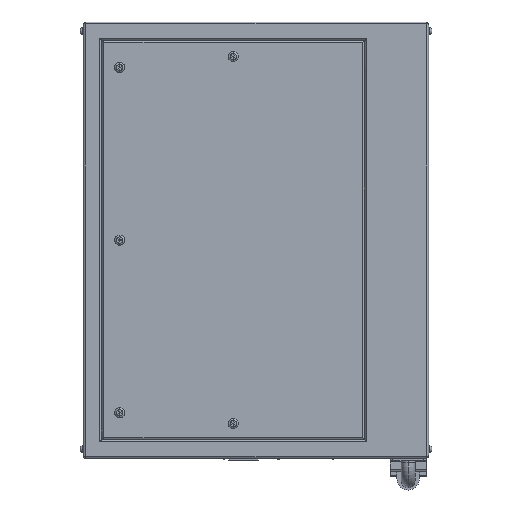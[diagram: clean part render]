
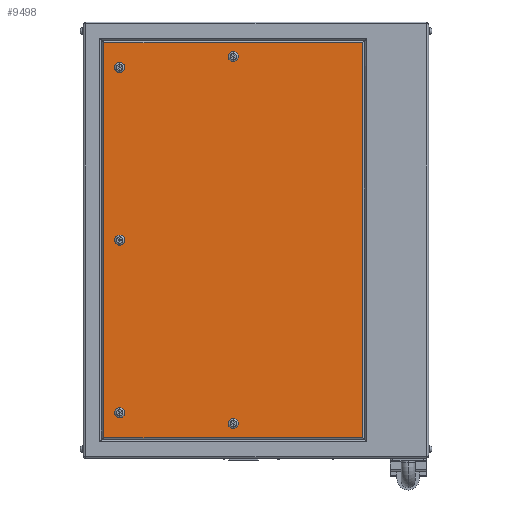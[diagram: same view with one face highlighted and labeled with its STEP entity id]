
A CAD part, left-side view. The second image highlights one B-rep face of the part: STEP entity #9498.
In plain terms, the highlighted planar face has unit normal (-1, 0, 0).
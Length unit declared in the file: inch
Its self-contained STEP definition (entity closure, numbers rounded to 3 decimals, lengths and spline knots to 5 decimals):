
#262 = CARTESIAN_POINT ( 'NONE',  ( -11., 15., -0.55 ) ) ;
#337 = DIRECTION ( 'NONE',  ( 1., 0., 0. ) ) ;
#510 = CIRCLE ( 'NONE', #3456, 0.55 ) ;
#653 = ORIENTED_EDGE ( 'NONE', *, *, #17229, .T. ) ;
#737 = CARTESIAN_POINT ( 'NONE',  ( -11., 15., -18.45 ) ) ;
#860 = VERTEX_POINT ( 'NONE', #16793 ) ;
#1104 = VERTEX_POINT ( 'NONE', #14311 ) ;
#1237 = CIRCLE ( 'NONE', #10006, 0.55 ) ;
#1396 = DIRECTION ( 'NONE',  ( 1., 0., 0. ) ) ;
#1413 = VERTEX_POINT ( 'NONE', #20986 ) ;
#1591 = CARTESIAN_POINT ( 'NONE',  ( -11., 15., 19. ) ) ;
#1637 = CIRCLE ( 'NONE', #3467, 0.55 ) ;
#1768 = CARTESIAN_POINT ( 'NONE',  ( -11., 15., 19. ) ) ;
#1953 = CIRCLE ( 'NONE', #19165, 0.55 ) ;
#2215 = VERTEX_POINT ( 'NONE', #9054 ) ;
#2551 = AXIS2_PLACEMENT_3D ( 'NONE', #10462, #5454, #15894 ) ;
#2556 = FACE_BOUND ( 'NONE', #16714, .T. ) ;
#2636 = AXIS2_PLACEMENT_3D ( 'NONE', #20833, #10281, #7305 ) ;
#2640 = CARTESIAN_POINT ( 'NONE',  ( -11., 19., 21.74 ) ) ;
#2742 = VERTEX_POINT ( 'NONE', #10995 ) ;
#3172 = VECTOR ( 'NONE', #18460, 39.37008 ) ;
#3259 = EDGE_CURVE ( 'NONE', #14568, #2215, #12790, .T. ) ;
#3456 = AXIS2_PLACEMENT_3D ( 'NONE', #10530, #337, #7315 ) ;
#3467 = AXIS2_PLACEMENT_3D ( 'NONE', #1768, #8745, #13848 ) ;
#3506 = ORIENTED_EDGE ( 'NONE', *, *, #20467, .T. ) ;
#3581 = DIRECTION ( 'NONE',  ( 1., 0., 0. ) ) ;
#3654 = EDGE_CURVE ( 'NONE', #7893, #8166, #1953, .T. ) ;
#3678 = ORIENTED_EDGE ( 'NONE', *, *, #3259, .T. ) ;
#3694 = DIRECTION ( 'NONE',  ( 1., 0., 0. ) ) ;
#3865 = CARTESIAN_POINT ( 'NONE',  ( -11., 15., 0. ) ) ;
#3918 = EDGE_LOOP ( 'NONE', ( #18243, #20564 ) ) ;
#4194 = DIRECTION ( 'NONE',  ( 0., -1., 0. ) ) ;
#4290 = DIRECTION ( 'NONE',  ( 0., 0., 1. ) ) ;
#4511 = VERTEX_POINT ( 'NONE', #19047 ) ;
#4584 = VERTEX_POINT ( 'NONE', #5542 ) ;
#5062 = DIRECTION ( 'NONE',  ( 0., 0., -1. ) ) ;
#5316 = DIRECTION ( 'NONE',  ( 0., 0., -1. ) ) ;
#5454 = DIRECTION ( 'NONE',  ( 1., 0., 0. ) ) ;
#5470 = VERTEX_POINT ( 'NONE', #13344 ) ;
#5542 = CARTESIAN_POINT ( 'NONE',  ( -11., 2.5, -20.74 ) ) ;
#5904 = LINE ( 'NONE', #9324, #14803 ) ;
#6093 = FACE_BOUND ( 'NONE', #3918, .T. ) ;
#6294 = CIRCLE ( 'NONE', #2636, 0.55 ) ;
#6315 = EDGE_CURVE ( 'NONE', #2215, #17585, #5904, .T. ) ;
#6569 = AXIS2_PLACEMENT_3D ( 'NONE', #9975, #1396, #14231 ) ;
#6912 = DIRECTION ( 'NONE',  ( 1., 0., 0. ) ) ;
#7090 = DIRECTION ( 'NONE',  ( 0., 0., -1. ) ) ;
#7305 = DIRECTION ( 'NONE',  ( 0., 0., -1. ) ) ;
#7315 = DIRECTION ( 'NONE',  ( 0., 0., -1. ) ) ;
#7359 = EDGE_LOOP ( 'NONE', ( #22237, #653 ) ) ;
#7778 = FACE_OUTER_BOUND ( 'NONE', #7985, .T. ) ;
#7893 = VERTEX_POINT ( 'NONE', #262 ) ;
#7985 = EDGE_LOOP ( 'NONE', ( #12116, #11883, #19491, #3678 ) ) ;
#8130 = EDGE_CURVE ( 'NONE', #2742, #1413, #510, .T. ) ;
#8166 = VERTEX_POINT ( 'NONE', #17322 ) ;
#8488 = CARTESIAN_POINT ( 'NONE',  ( -11., 15., 0. ) ) ;
#8574 = DIRECTION ( 'NONE',  ( 1., 0., 0. ) ) ;
#8669 = VECTOR ( 'NONE', #4290, 39.37008 ) ;
#8745 = DIRECTION ( 'NONE',  ( 1., 0., 0. ) ) ;
#8951 = EDGE_CURVE ( 'NONE', #1413, #2742, #16001, .T. ) ;
#9054 = CARTESIAN_POINT ( 'NONE',  ( -11., 16.74, -21.74 ) ) ;
#9125 = EDGE_CURVE ( 'NONE', #860, #14568, #18344, .T. ) ;
#9130 = CARTESIAN_POINT ( 'NONE',  ( -11., 2.5, -19.64 ) ) ;
#9324 = CARTESIAN_POINT ( 'NONE',  ( -11., 19., -21.74 ) ) ;
#9492 = EDGE_CURVE ( 'NONE', #17585, #860, #12975, .T. ) ;
#9498 = ADVANCED_FACE ( 'NONE', ( #11245, #2556, #9522, #6093, #16526, #7778 ), #14843, .F. ) ;
#9522 = FACE_BOUND ( 'NONE', #16847, .T. ) ;
#9745 = AXIS2_PLACEMENT_3D ( 'NONE', #15857, #3694, #14137 ) ;
#9975 = CARTESIAN_POINT ( 'NONE',  ( -11., 2.5, -20.19 ) ) ;
#10006 = AXIS2_PLACEMENT_3D ( 'NONE', #8488, #6912, #5316 ) ;
#10281 = DIRECTION ( 'NONE',  ( 1., 0., 0. ) ) ;
#10462 = CARTESIAN_POINT ( 'NONE',  ( -11., 15., -19. ) ) ;
#10530 = CARTESIAN_POINT ( 'NONE',  ( -11., 2.5, 20.19 ) ) ;
#10745 = VECTOR ( 'NONE', #5062, 39.37008 ) ;
#10947 = VERTEX_POINT ( 'NONE', #737 ) ;
#10995 = CARTESIAN_POINT ( 'NONE',  ( -11., 2.5, 19.64 ) ) ;
#11055 = ORIENTED_EDGE ( 'NONE', *, *, #19475, .T. ) ;
#11245 = FACE_BOUND ( 'NONE', #16140, .T. ) ;
#11353 = CARTESIAN_POINT ( 'NONE',  ( -11., -11.74, -24. ) ) ;
#11883 = ORIENTED_EDGE ( 'NONE', *, *, #9492, .T. ) ;
#11976 = ORIENTED_EDGE ( 'NONE', *, *, #18030, .T. ) ;
#12116 = ORIENTED_EDGE ( 'NONE', *, *, #6315, .T. ) ;
#12291 = DIRECTION ( 'NONE',  ( 0., 0., -1. ) ) ;
#12435 = CIRCLE ( 'NONE', #6569, 0.55 ) ;
#12790 = LINE ( 'NONE', #17194, #10745 ) ;
#12975 = LINE ( 'NONE', #11353, #8669 ) ;
#13227 = CIRCLE ( 'NONE', #18725, 0.55 ) ;
#13309 = AXIS2_PLACEMENT_3D ( 'NONE', #13452, #8574, #15628 ) ;
#13344 = CARTESIAN_POINT ( 'NONE',  ( -11., 15., 19.55 ) ) ;
#13452 = CARTESIAN_POINT ( 'NONE',  ( -11., 2.5, -20.19 ) ) ;
#13848 = DIRECTION ( 'NONE',  ( 0., 0., -1. ) ) ;
#14031 = EDGE_CURVE ( 'NONE', #4584, #20727, #20217, .T. ) ;
#14137 = DIRECTION ( 'NONE',  ( 0., 0., -1. ) ) ;
#14231 = DIRECTION ( 'NONE',  ( 0., 0., 1. ) ) ;
#14311 = CARTESIAN_POINT ( 'NONE',  ( -11., 15., 18.45 ) ) ;
#14419 = CARTESIAN_POINT ( 'NONE',  ( -11., -11.74, -21.74 ) ) ;
#14568 = VERTEX_POINT ( 'NONE', #17903 ) ;
#14662 = CIRCLE ( 'NONE', #2551, 0.55 ) ;
#14803 = VECTOR ( 'NONE', #4194, 39.37008 ) ;
#14843 = PLANE ( 'NONE',  #16016 ) ;
#14868 = EDGE_CURVE ( 'NONE', #8166, #7893, #1237, .T. ) ;
#15148 = EDGE_CURVE ( 'NONE', #1104, #5470, #1637, .T. ) ;
#15628 = DIRECTION ( 'NONE',  ( 0., 0., 1. ) ) ;
#15857 = CARTESIAN_POINT ( 'NONE',  ( -11., 2.5, 20.19 ) ) ;
#15880 = ORIENTED_EDGE ( 'NONE', *, *, #8130, .T. ) ;
#15894 = DIRECTION ( 'NONE',  ( 0., 0., -1. ) ) ;
#16001 = CIRCLE ( 'NONE', #9745, 0.55 ) ;
#16016 = AXIS2_PLACEMENT_3D ( 'NONE', #20958, #3581, #12291 ) ;
#16140 = EDGE_LOOP ( 'NONE', ( #19862, #11976 ) ) ;
#16480 = ORIENTED_EDGE ( 'NONE', *, *, #8951, .T. ) ;
#16526 = FACE_BOUND ( 'NONE', #7359, .T. ) ;
#16714 = EDGE_LOOP ( 'NONE', ( #15880, #16480 ) ) ;
#16793 = CARTESIAN_POINT ( 'NONE',  ( -11., -11.74, 21.74 ) ) ;
#16847 = EDGE_LOOP ( 'NONE', ( #3506, #11055 ) ) ;
#17194 = CARTESIAN_POINT ( 'NONE',  ( -11., 16.74, -24. ) ) ;
#17229 = EDGE_CURVE ( 'NONE', #5470, #1104, #13227, .T. ) ;
#17322 = CARTESIAN_POINT ( 'NONE',  ( -11., 15., 0.55 ) ) ;
#17585 = VERTEX_POINT ( 'NONE', #14419 ) ;
#17903 = CARTESIAN_POINT ( 'NONE',  ( -11., 16.74, 21.74 ) ) ;
#18030 = EDGE_CURVE ( 'NONE', #20727, #4584, #12435, .T. ) ;
#18243 = ORIENTED_EDGE ( 'NONE', *, *, #3654, .T. ) ;
#18344 = LINE ( 'NONE', #2640, #3172 ) ;
#18460 = DIRECTION ( 'NONE',  ( 0., 1., 0. ) ) ;
#18725 = AXIS2_PLACEMENT_3D ( 'NONE', #1591, #20712, #7090 ) ;
#19047 = CARTESIAN_POINT ( 'NONE',  ( -11., 15., -19.55 ) ) ;
#19165 = AXIS2_PLACEMENT_3D ( 'NONE', #3865, #20920, #19655 ) ;
#19475 = EDGE_CURVE ( 'NONE', #10947, #4511, #6294, .T. ) ;
#19491 = ORIENTED_EDGE ( 'NONE', *, *, #9125, .T. ) ;
#19655 = DIRECTION ( 'NONE',  ( 0., 0., -1. ) ) ;
#19862 = ORIENTED_EDGE ( 'NONE', *, *, #14031, .T. ) ;
#20217 = CIRCLE ( 'NONE', #13309, 0.55 ) ;
#20467 = EDGE_CURVE ( 'NONE', #4511, #10947, #14662, .T. ) ;
#20564 = ORIENTED_EDGE ( 'NONE', *, *, #14868, .T. ) ;
#20712 = DIRECTION ( 'NONE',  ( 1., 0., 0. ) ) ;
#20727 = VERTEX_POINT ( 'NONE', #9130 ) ;
#20833 = CARTESIAN_POINT ( 'NONE',  ( -11., 15., -19. ) ) ;
#20920 = DIRECTION ( 'NONE',  ( 1., 0., 0. ) ) ;
#20958 = CARTESIAN_POINT ( 'NONE',  ( -11., 19., -24. ) ) ;
#20986 = CARTESIAN_POINT ( 'NONE',  ( -11., 2.5, 20.74 ) ) ;
#22237 = ORIENTED_EDGE ( 'NONE', *, *, #15148, .T. ) ;
